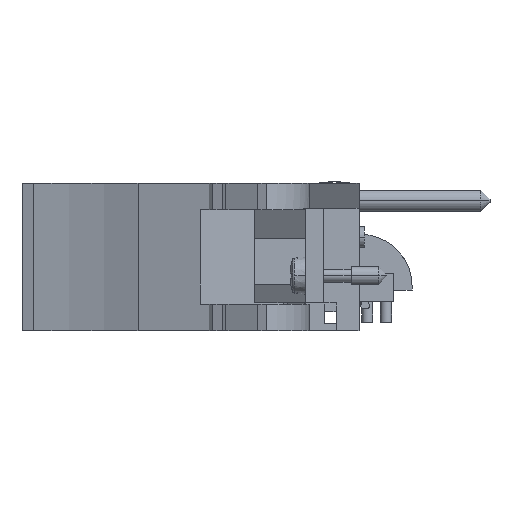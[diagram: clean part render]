
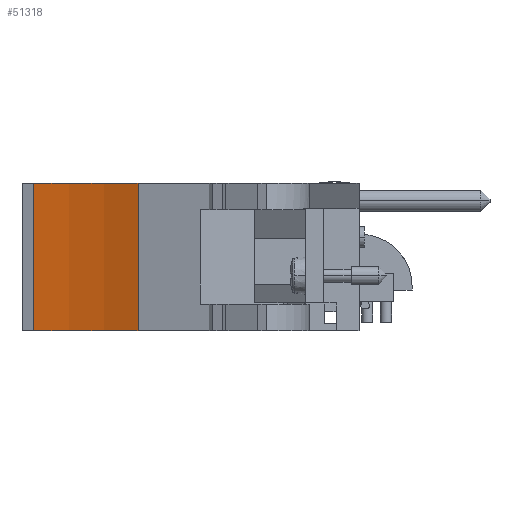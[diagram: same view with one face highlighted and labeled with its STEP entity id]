
A CAD part, front view. The second image highlights one B-rep face of the part: STEP entity #51318.
In plain terms, the highlighted cylindrical face has radius 51.46 mm (diameter 102.919 mm), a partial arc.
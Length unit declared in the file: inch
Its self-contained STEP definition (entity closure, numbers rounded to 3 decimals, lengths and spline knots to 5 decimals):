
#49959=CARTESIAN_POINT('',(-1.97678,-5.95043,-0.093));
#49960=DIRECTION('',(0.,0.,1.));
#49961=DIRECTION('',(0.435,0.9,0.));
#49962=AXIS2_PLACEMENT_3D('',#49959,#49960,#49961);
#50281=CARTESIAN_POINT('',(-1.97678,-5.95043,0.695));
#50282=DIRECTION('',(0.,0.,1.));
#50283=DIRECTION('',(0.435,0.9,0.));
#50284=AXIS2_PLACEMENT_3D('',#50281,#50282,#50283);
#50380=DIRECTION('',(0.,0.,1.));
#50381=VECTOR('',#50380,0.788);
#50382=CARTESIAN_POINT('',(-1.09548,-4.12619,-0.093));
#50383=LINE('',#50382,#50381);
#50396=DIRECTION('',(0.,0.,1.));
#50397=VECTOR('',#50396,0.788);
#50398=CARTESIAN_POINT('',(-1.65345,-3.95043,-0.093));
#50399=LINE('',#50398,#50397);
#50709=CARTESIAN_POINT('',(-1.09548,-4.12619,-0.093));
#50710=CARTESIAN_POINT('',(-1.65345,-3.95043,-0.093));
#50711=VERTEX_POINT('',#50709);
#50712=VERTEX_POINT('',#50710);
#50713=CARTESIAN_POINT('',(-1.09548,-4.12619,0.695));
#50714=CARTESIAN_POINT('',(-1.65345,-3.95043,0.695));
#50715=VERTEX_POINT('',#50713);
#50716=VERTEX_POINT('',#50714);
#51307=CARTESIAN_POINT('',(-1.97678,-5.95043,0.695));
#51308=DIRECTION('',(0.,0.,1.));
#51309=DIRECTION('',(0.,1.,0.));
#51310=AXIS2_PLACEMENT_3D('',#51307,#51308,#51309);
#51311=CYLINDRICAL_SURFACE('',#51310,2.02597);
#51312=ORIENTED_EDGE('',*,*,#50812,.T.);
#51313=ORIENTED_EDGE('',*,*,#51298,.T.);
#51314=ORIENTED_EDGE('',*,*,#51137,.F.);
#51315=ORIENTED_EDGE('',*,*,#51279,.F.);
#51316=EDGE_LOOP('',(#51312,#51313,#51314,#51315));
#51317=FACE_OUTER_BOUND('',#51316,.F.);
#51318=ADVANCED_FACE('',(#51317),#51311,.F.);
#49963=CIRCLE('',#49962,2.02597);
#50285=CIRCLE('',#50284,2.02597);
#50812=EDGE_CURVE('',#50711,#50712,#49963,.T.);
#51137=EDGE_CURVE('',#50715,#50716,#50285,.T.);
#51279=EDGE_CURVE('',#50711,#50715,#50383,.T.);
#51298=EDGE_CURVE('',#50712,#50716,#50399,.T.);
